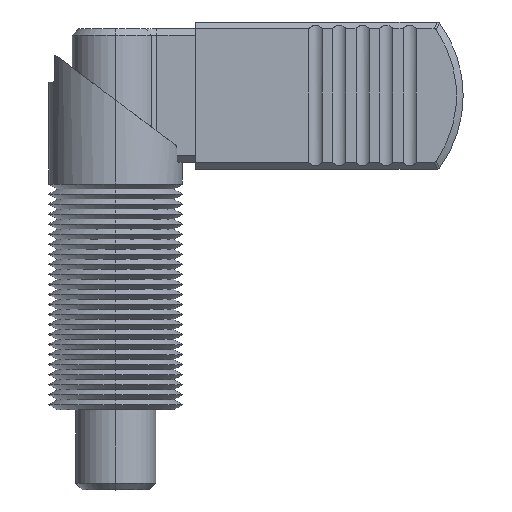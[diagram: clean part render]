
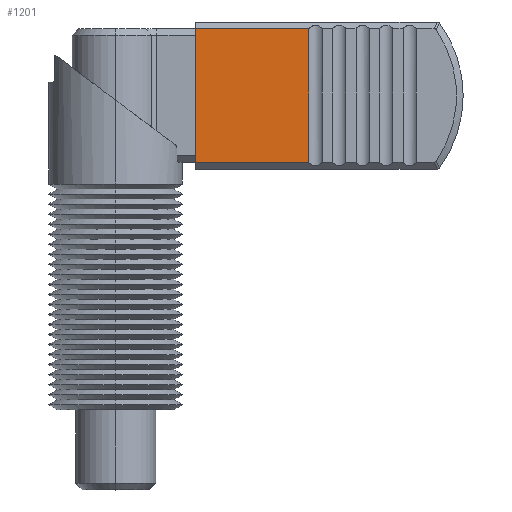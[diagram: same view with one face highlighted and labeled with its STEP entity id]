
A CAD part, top view. The second image highlights one B-rep face of the part: STEP entity #1201.
In plain terms, the highlighted planar face has unit normal (0, 0, 1) as drawn and (-1, 0, 0) by its records, which use the part's own axes.
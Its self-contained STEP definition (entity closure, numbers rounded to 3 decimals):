
#717 = VERTEX_POINT ( 'NONE', #2458 ) ;
#725 = VERTEX_POINT ( 'NONE', #2452 ) ;
#727 = EDGE_CURVE ( 'NONE', #717, #725, #2446, .T. ) ;
#883 = EDGE_LOOP ( 'NONE', ( #902, #897, #895, #891 ) ) ;
#890 = EDGE_CURVE ( 'NONE', #894, #900, #2753, .T. ) ;
#891 = ORIENTED_EDGE ( 'NONE', *, *, #893, .T. ) ;
#893 = EDGE_CURVE ( 'NONE', #717, #894, #2806, .T. ) ;
#894 = VERTEX_POINT ( 'NONE', #2802 ) ;
#895 = ORIENTED_EDGE ( 'NONE', *, *, #727, .F. ) ;
#897 = ORIENTED_EDGE ( 'NONE', *, *, #898, .T. ) ;
#898 = EDGE_CURVE ( 'NONE', #900, #725, #2797, .T. ) ;
#900 = VERTEX_POINT ( 'NONE', #2789 ) ;
#902 = ORIENTED_EDGE ( 'NONE', *, *, #890, .T. ) ;
#1201 = ADVANCED_FACE ( 'NONE', ( #3279 ), #3278, .T. ) ;
#2443 = DIRECTION ( 'NONE',  ( 0., 1., 0. ) ) ;
#2444 = VECTOR ( 'NONE', #2443, 1000. ) ;
#2445 = CARTESIAN_POINT ( 'NONE',  ( -4.25, -11., 0. ) ) ;
#2446 = LINE ( 'NONE', #2445, #2444 ) ;
#2452 = CARTESIAN_POINT ( 'NONE',  ( -4.25, 9.999, 0. ) ) ;
#2458 = CARTESIAN_POINT ( 'NONE',  ( -4.25, -9.999, 0. ) ) ;
#2752 = CARTESIAN_POINT ( 'NONE',  ( -4.25, -11., 16.921 ) ) ;
#2753 = LINE ( 'NONE', #2752, #2809 ) ;
#2789 = CARTESIAN_POINT ( 'NONE',  ( -4.25, 9.999, 16.921 ) ) ;
#2794 = DIRECTION ( 'NONE',  ( 0., 0., -1. ) ) ;
#2795 = VECTOR ( 'NONE', #2794, 1000. ) ;
#2796 = CARTESIAN_POINT ( 'NONE',  ( -4.25, 9.999, 0. ) ) ;
#2797 = LINE ( 'NONE', #2796, #2795 ) ;
#2802 = CARTESIAN_POINT ( 'NONE',  ( -4.25, -9.999, 16.921 ) ) ;
#2803 = DIRECTION ( 'NONE',  ( 0., 0., 1. ) ) ;
#2804 = VECTOR ( 'NONE', #2803, 1000. ) ;
#2805 = CARTESIAN_POINT ( 'NONE',  ( -4.25, -9.999, 36.335 ) ) ;
#2806 = LINE ( 'NONE', #2805, #2804 ) ;
#2808 = DIRECTION ( 'NONE',  ( 0., 1., 0. ) ) ;
#2809 = VECTOR ( 'NONE', #2808, 1000. ) ;
#3274 = DIRECTION ( 'NONE',  ( 0., 0., 1. ) ) ;
#3275 = DIRECTION ( 'NONE',  ( -1., 0., 0. ) ) ;
#3276 = CARTESIAN_POINT ( 'NONE',  ( -4.25, 0., 21.661 ) ) ;
#3277 = AXIS2_PLACEMENT_3D ( 'NONE', #3276, #3275, #3274 ) ;
#3278 = PLANE ( 'NONE',  #3277 ) ;
#3279 = FACE_OUTER_BOUND ( 'NONE', #883, .T. ) ;
